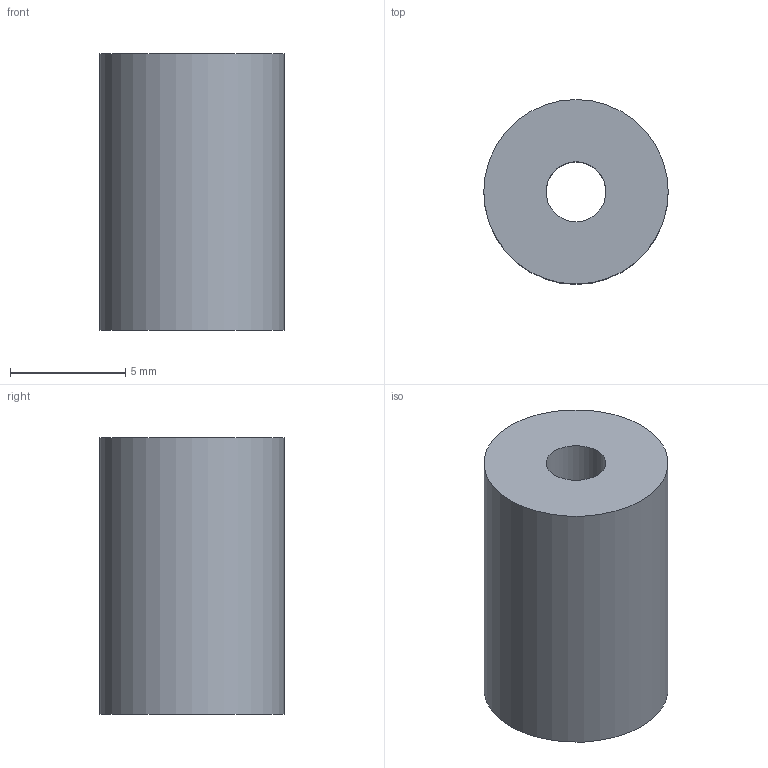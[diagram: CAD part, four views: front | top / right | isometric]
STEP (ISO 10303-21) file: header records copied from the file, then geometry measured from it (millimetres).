
FILE_DESCRIPTION(('Open CASCADE Model'),'2;1');
FILE_NAME('Open CASCADE Shape Model','2026-10-05T13:03:08',('Author'),( 'Open CASCADE'),'Open CASCADE STEP processor 7.9','Open CASCADE 7.9' ,'Unknown');
FILE_SCHEMA(('AUTOMOTIVE_DESIGN { 1 0 10303 214 1 1 1 1 }'));
Length unit declared in the file: millimetre
Products named in the file (1): Open CASCADE STEP translator 7.9 27
Bounding box: 8 x 8 x 12 mm (x, y, z)
Volume: 539.5 mm3; surface area: 489.5 mm2
Topology: 1 solids, 1 shells, 4 faces, 6 edges, 4 vertices
Faces by surface type: cylinder 2, plane 2
Full cylindrical faces by diameter (mm): 2.6 x1, 8 x1
Entity records: 186 total; most frequent: DIRECTION 32, CARTESIAN_POINT 27, ORIENTED_EDGE 12, PCURVE 12, DEFINITIONAL_REPRESENTATION 12, LINE 10, VECTOR 10, AXIS2_PLACEMENT_3D 9
